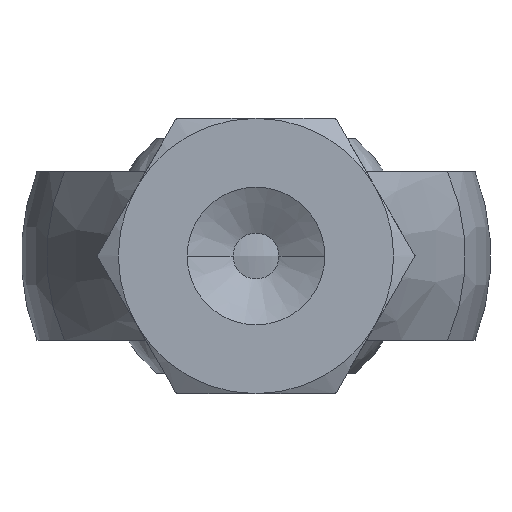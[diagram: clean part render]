
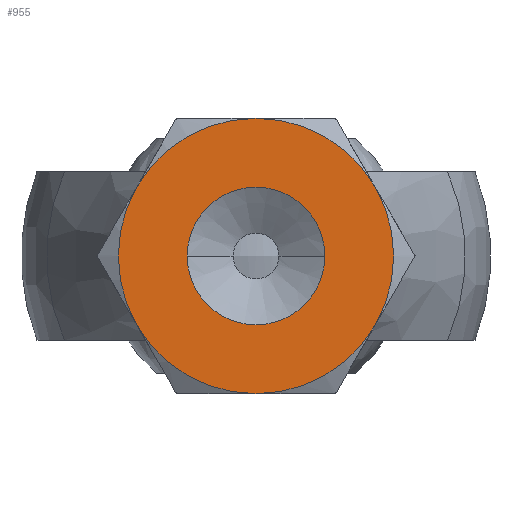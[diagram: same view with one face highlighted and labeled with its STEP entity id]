
A CAD part, front view. The second image highlights one B-rep face of the part: STEP entity #955.
In plain terms, the highlighted planar face has unit normal (0, -1, 0).
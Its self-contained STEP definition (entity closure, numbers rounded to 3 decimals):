
#920 = VERTEX_POINT ( 'NONE', #1805 ) ;
#925 = EDGE_CURVE ( 'NONE', #920, #926, #1849, .T. ) ;
#926 = VERTEX_POINT ( 'NONE', #1812 ) ;
#947 = EDGE_CURVE ( 'NONE', #1001, #948, #1872, .T. ) ;
#948 = VERTEX_POINT ( 'NONE', #1864 ) ;
#952 = EDGE_LOOP ( 'NONE', ( #953, #1000, #1018, #996, #998, #1020 ) ) ;
#953 = ORIENTED_EDGE ( 'NONE', *, *, #990, .T. ) ;
#954 = ORIENTED_EDGE ( 'NONE', *, *, #1023, .T. ) ;
#955 = ADVANCED_FACE ( 'NONE', ( #1856, #1907 ), #1873, .T. ) ;
#956 = VERTEX_POINT ( 'NONE', #1906 ) ;
#960 = EDGE_CURVE ( 'NONE', #956, #1014, #1853, .T. ) ;
#990 = EDGE_CURVE ( 'NONE', #1001, #1014, #1911, .T. ) ;
#995 = ORIENTED_EDGE ( 'NONE', *, *, #925, .T. ) ;
#996 = ORIENTED_EDGE ( 'NONE', *, *, #1019, .F. ) ;
#997 = VERTEX_POINT ( 'NONE', #1914 ) ;
#998 = ORIENTED_EDGE ( 'NONE', *, *, #1024, .F. ) ;
#999 = VERTEX_POINT ( 'NONE', #1958 ) ;
#1000 = ORIENTED_EDGE ( 'NONE', *, *, #960, .F. ) ;
#1001 = VERTEX_POINT ( 'NONE', #1950 ) ;
#1005 = EDGE_LOOP ( 'NONE', ( #995, #954 ) ) ;
#1014 = VERTEX_POINT ( 'NONE', #1940 ) ;
#1017 = EDGE_CURVE ( 'NONE', #997, #956, #1994, .T. ) ;
#1018 = ORIENTED_EDGE ( 'NONE', *, *, #1017, .F. ) ;
#1019 = EDGE_CURVE ( 'NONE', #999, #997, #1988, .T. ) ;
#1020 = ORIENTED_EDGE ( 'NONE', *, *, #947, .F. ) ;
#1023 = EDGE_CURVE ( 'NONE', #926, #920, #2040, .T. ) ;
#1024 = EDGE_CURVE ( 'NONE', #948, #999, #2039, .T. ) ;
#1803 = CARTESIAN_POINT ( 'NONE',  ( 0., -71., 0. ) ) ;
#1805 = CARTESIAN_POINT ( 'NONE',  ( 0., -71., -6.75 ) ) ;
#1810 = AXIS2_PLACEMENT_3D ( 'NONE', #1803, #1846, #1845 ) ;
#1812 = CARTESIAN_POINT ( 'NONE',  ( 0., -71., 6.75 ) ) ;
#1845 = DIRECTION ( 'NONE',  ( 0., 0., -1. ) ) ;
#1846 = DIRECTION ( 'NONE',  ( 0., 1., 0. ) ) ;
#1849 = CIRCLE ( 'NONE', #1810, 6.75 ) ;
#1851 = DIRECTION ( 'NONE',  ( 0., -1., 0. ) ) ;
#1853 = CIRCLE ( 'NONE', #1855, 13.5 ) ;
#1855 = AXIS2_PLACEMENT_3D ( 'NONE', #1901, #1887, #1886 ) ;
#1856 = FACE_BOUND ( 'NONE', #1005, .T. ) ;
#1857 = AXIS2_PLACEMENT_3D ( 'NONE', #1861, #1851, #1900 ) ;
#1858 = DIRECTION ( 'NONE',  ( -1., 0., 0. ) ) ;
#1859 = DIRECTION ( 'NONE',  ( 0., 1., 0. ) ) ;
#1860 = AXIS2_PLACEMENT_3D ( 'NONE', #1863, #1859, #1858 ) ;
#1861 = CARTESIAN_POINT ( 'NONE',  ( 13.662, -71., -13.5 ) ) ;
#1863 = CARTESIAN_POINT ( 'NONE',  ( 0., -71., 0. ) ) ;
#1864 = CARTESIAN_POINT ( 'NONE',  ( 0., -71., -13.5 ) ) ;
#1872 = CIRCLE ( 'NONE', #1860, 13.5 ) ;
#1873 = PLANE ( 'NONE',  #1857 ) ;
#1886 = DIRECTION ( 'NONE',  ( -1., 0., 0. ) ) ;
#1887 = DIRECTION ( 'NONE',  ( 0., 1., 0. ) ) ;
#1900 = DIRECTION ( 'NONE',  ( 0., 0., 1. ) ) ;
#1901 = CARTESIAN_POINT ( 'NONE',  ( 0., -71., 0. ) ) ;
#1906 = CARTESIAN_POINT ( 'NONE',  ( 0., -71., 13.5 ) ) ;
#1907 = FACE_OUTER_BOUND ( 'NONE', #952, .T. ) ;
#1911 = CIRCLE ( 'NONE', #1943, 13.5 ) ;
#1914 = CARTESIAN_POINT ( 'NONE',  ( -11.691, -71., 6.75 ) ) ;
#1940 = CARTESIAN_POINT ( 'NONE',  ( 11.691, -71., 6.75 ) ) ;
#1942 = DIRECTION ( 'NONE',  ( 0., 0., 1. ) ) ;
#1943 = AXIS2_PLACEMENT_3D ( 'NONE', #1949, #1953, #1942 ) ;
#1949 = CARTESIAN_POINT ( 'NONE',  ( 0., -71., 0. ) ) ;
#1950 = CARTESIAN_POINT ( 'NONE',  ( 11.691, -71., -6.75 ) ) ;
#1953 = DIRECTION ( 'NONE',  ( 0., -1., 0. ) ) ;
#1958 = CARTESIAN_POINT ( 'NONE',  ( -11.691, -71., -6.75 ) ) ;
#1985 = DIRECTION ( 'NONE',  ( -1., 0., 0. ) ) ;
#1986 = DIRECTION ( 'NONE',  ( 0., 1., 0. ) ) ;
#1987 = CARTESIAN_POINT ( 'NONE',  ( 0., -71., 0. ) ) ;
#1988 = CIRCLE ( 'NONE', #2038, 13.5 ) ;
#1989 = AXIS2_PLACEMENT_3D ( 'NONE', #1987, #1986, #1985 ) ;
#1994 = CIRCLE ( 'NONE', #1989, 13.5 ) ;
#2026 = DIRECTION ( 'NONE',  ( -1., 0., 0. ) ) ;
#2027 = DIRECTION ( 'NONE',  ( 0., 1., 0. ) ) ;
#2028 = CARTESIAN_POINT ( 'NONE',  ( 0., -71., 0. ) ) ;
#2029 = AXIS2_PLACEMENT_3D ( 'NONE', #2028, #2027, #2026 ) ;
#2031 = DIRECTION ( 'NONE',  ( 0., 0., -1. ) ) ;
#2032 = DIRECTION ( 'NONE',  ( 0., 1., 0. ) ) ;
#2033 = CARTESIAN_POINT ( 'NONE',  ( 0., -71., 0. ) ) ;
#2034 = AXIS2_PLACEMENT_3D ( 'NONE', #2033, #2032, #2031 ) ;
#2035 = DIRECTION ( 'NONE',  ( 0., 0., 1. ) ) ;
#2036 = DIRECTION ( 'NONE',  ( 0., 1., 0. ) ) ;
#2037 = CARTESIAN_POINT ( 'NONE',  ( 0., -71., 0. ) ) ;
#2038 = AXIS2_PLACEMENT_3D ( 'NONE', #2037, #2036, #2035 ) ;
#2039 = CIRCLE ( 'NONE', #2029, 13.5 ) ;
#2040 = CIRCLE ( 'NONE', #2034, 6.75 ) ;
